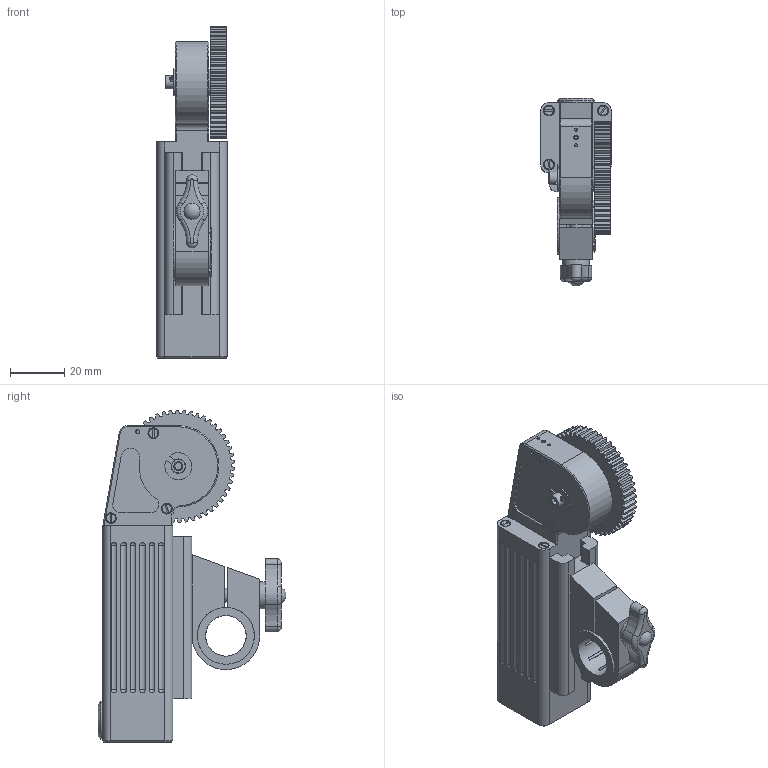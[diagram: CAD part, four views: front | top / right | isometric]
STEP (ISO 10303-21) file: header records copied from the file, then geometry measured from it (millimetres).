
FILE_DESCRIPTION (( 'STEP AP214' ), '1' );
FILE_NAME ('M26VE.STEP', '2017-04-13T08:09:07', ( '' ), ( '' ), 'SwSTEP 2.0', 'SolidWorks 2017', '' );
FILE_SCHEMA (( 'AUTOMOTIVE_DESIGN' ));
Length unit declared in the file: millimetre
Products named in the file (1): M26VE
Bounding box: 26 x 69.5 x 122.8 mm (x, y, z)
Volume: 90860.6 mm3; surface area: 26294.4 mm2
Topology: 1 solids, 1 shells, 700 faces, 1839 edges, 1202 vertices
Faces by surface type: cylinder 329, plane 249, cone 48, sphere 42, torus 32
Full cylindrical faces by diameter (mm): 1.1 x9, 1.6 x3, 1.8 x3, 2.5 x1, 2.7 x1, 4 x11, 5 x1, 5.1 x1, 5.5 x1, 6 x3, 9 x1, 10 x2, 14 x1, 15 x1, 19 x1, 21 x1
Entity records: 29728 total; most frequent: CARTESIAN_POINT 4880, DIRECTION 3844, ORIENTED_EDGE 3444, EDGE_CURVE 1722, AXIS2_PLACEMENT_3D 1558, VERTEX_POINT 1159, CIRCLE 857, EDGE_LOOP 851
